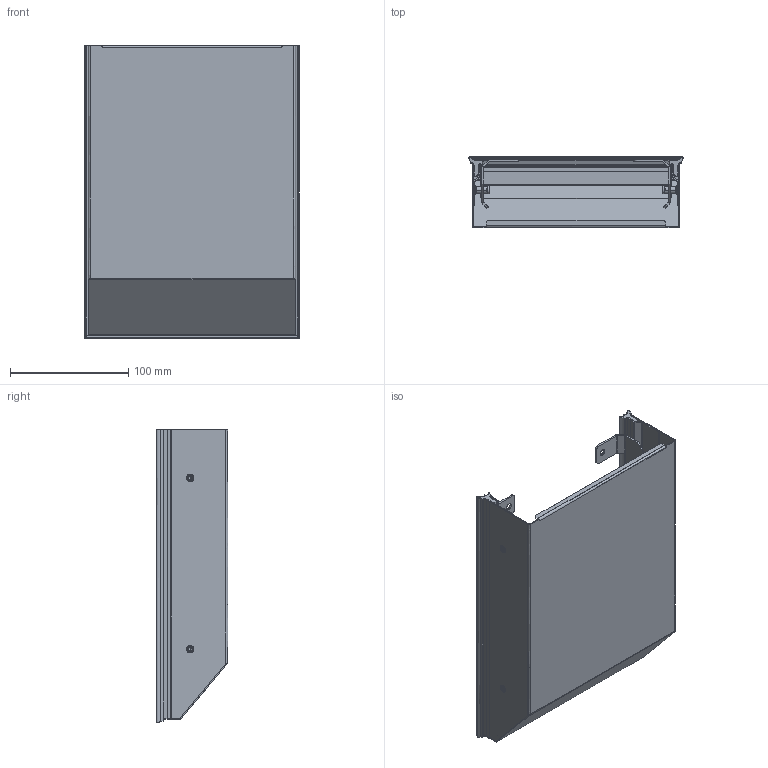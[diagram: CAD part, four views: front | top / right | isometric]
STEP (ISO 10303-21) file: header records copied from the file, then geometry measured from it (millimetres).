
FILE_DESCRIPTION(/* description */ (''),/* implementation_level */ '2;1');
FILE_NAME(/* name */ 'SSC-12A',/* time_stamp */ '2020-03-11T09:48:34+01:00',/* author */ (''),/* organization */ (''),/* preprocessor_version */ 'ST-DEVELOPER v14',/* originating_system */ '',/* authorisation */ '');
FILE_SCHEMA (('CONFIG_CONTROL_DESIGN'));
Length unit declared in the file: millimetre
Products named in the file (1): Document
Bounding box: 181.4 x 60.56 x 248.2 mm (x, y, z)
Volume: 28030.9 mm3; surface area: 276311.1 mm2
Topology: 7 solids, 11 shells, 539 faces, 1414 edges, 848 vertices
Faces by surface type: bspline 332, plane 207
Entity records: 20381 total; most frequent: CARTESIAN_POINT 12003, ORIENTED_EDGE 2719, EDGE_CURVE 1406, B_SPLINE_CURVE_WITH_KNOTS 958, VERTEX_POINT 848, EDGE_LOOP 579, ADVANCED_FACE 539, FACE_OUTER_BOUND 539
